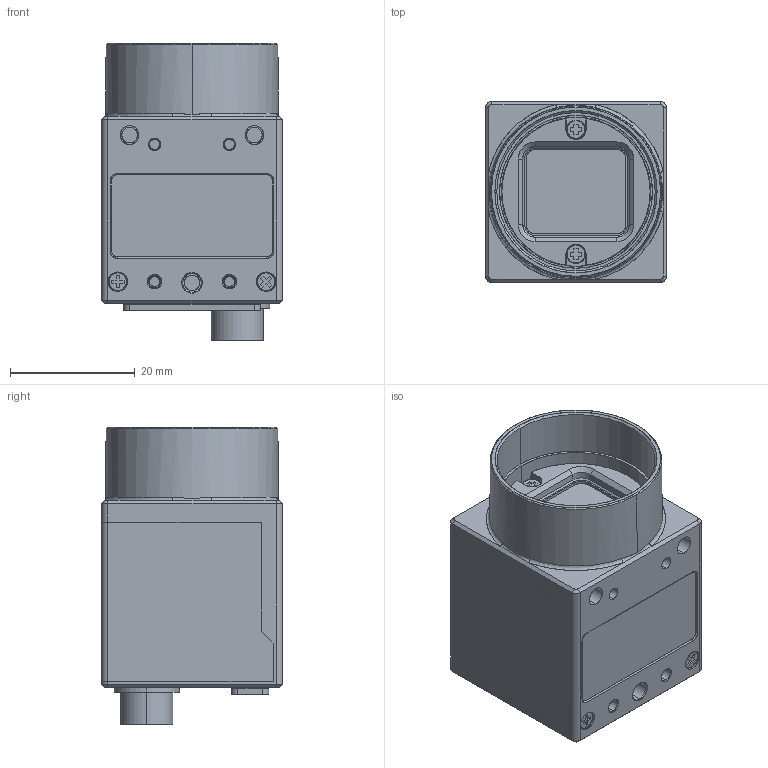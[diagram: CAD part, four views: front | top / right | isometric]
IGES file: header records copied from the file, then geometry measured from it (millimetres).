
Start section: SolidWorks IGES file using analytic representation for surfaces
Global section: file name: \\10.1.0.203\project\engineering\MECH_CAD\mechanical\Projects\NPI CAD Generation\FL2 Large Format\Export\FL2-020-R0.IGS; native system: SolidWorks 2017; preprocessor: SolidWorks 2017; author: CPan; date: 170523.120732; units: millimetre
Bounding box: 29 x 29 x 47.76 mm (x, y, z)
Surface area: 8037.2 mm2 (no closed solid volume)
Topology: 0 solids, 0 shells, 421 faces, 4607 edges, 4603 vertices
Faces by surface type: bspline 241, revolution 180
